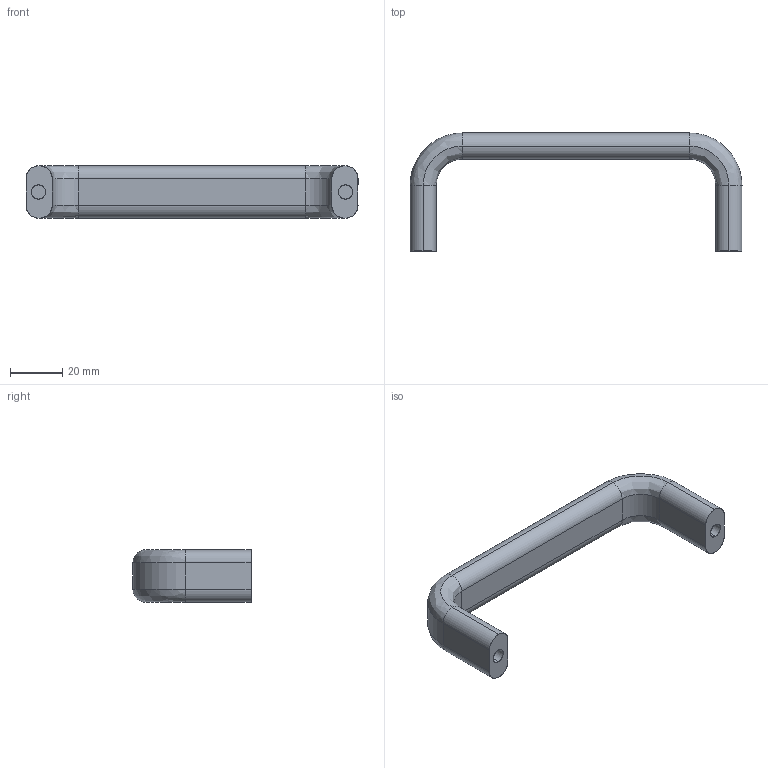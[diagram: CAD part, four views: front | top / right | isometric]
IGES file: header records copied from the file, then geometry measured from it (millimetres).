
Start section: SolidWorks IGES file using analytic representation for surfaces
Bounding box: 126.5 x 45 x 20 mm (x, y, z)
Surface area: 10137.6 mm2 (no closed solid volume)
Topology: 0 solids, 0 shells, 38 faces, 332 edges, 332 vertices
Faces by surface type: revolution 20, bspline 18
